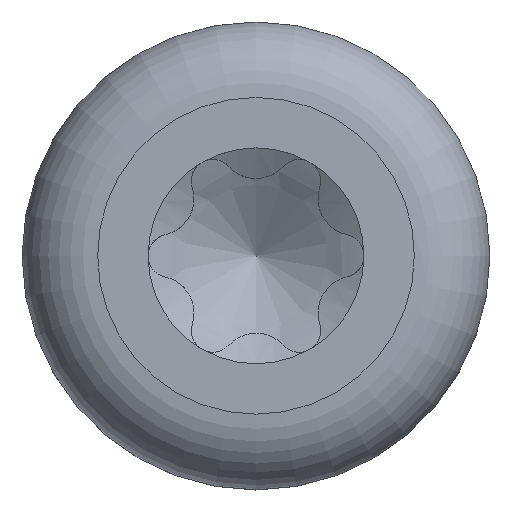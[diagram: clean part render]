
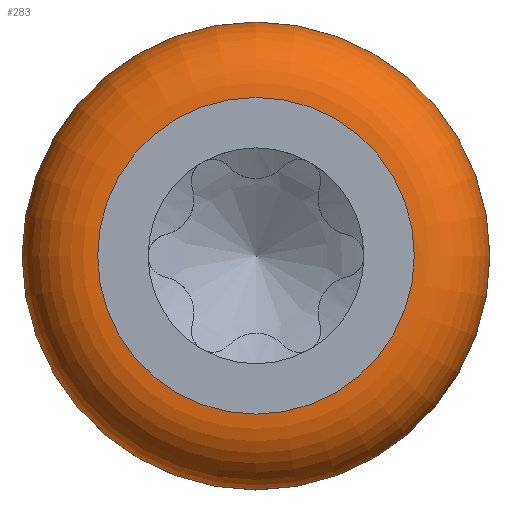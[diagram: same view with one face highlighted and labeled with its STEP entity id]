
A CAD part, top view. The second image highlights one B-rep face of the part: STEP entity #283.
In plain terms, the highlighted toroidal (fillet/blend) face has major radius 0.88 mm and minor radius 0.42 mm.
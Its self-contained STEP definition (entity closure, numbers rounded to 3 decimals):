
#283=ADVANCED_FACE('',(#476,#477),#353,.T.);
#353=TOROIDAL_SURFACE('',#1273,0.88,0.42);
#476=FACE_BOUND('',#500,.T.);
#477=FACE_BOUND('',#501,.T.);
#500=EDGE_LOOP('',(#628));
#501=EDGE_LOOP('',(#629));
#628=ORIENTED_EDGE('',*,*,#1101,.F.);
#629=ORIENTED_EDGE('',*,*,#1100,.T.);
#980=VERTEX_POINT('',#2711);
#981=VERTEX_POINT('',#2714);
#1100=EDGE_CURVE('',#980,#980,#1243,.T.);
#1101=EDGE_CURVE('',#981,#981,#1244,.T.);
#1243=CIRCLE('',#1270,1.3);
#1244=CIRCLE('',#1272,0.88);
#1270=AXIS2_PLACEMENT_3D('',#2710,#1342,#1343);
#1272=AXIS2_PLACEMENT_3D('',#2713,#1346,#1347);
#1273=AXIS2_PLACEMENT_3D('',#2715,#1348,#1349);
#1342=DIRECTION('',(0.,0.,1.));
#1343=DIRECTION('',(1.,0.,0.));
#1346=DIRECTION('',(0.,0.,1.));
#1347=DIRECTION('',(1.,0.,0.));
#1348=DIRECTION('',(0.,0.,1.));
#1349=DIRECTION('',(1.,0.,0.));
#2710=CARTESIAN_POINT('',(0.,0.,0.63));
#2711=CARTESIAN_POINT('',(1.3,0.,0.63));
#2713=CARTESIAN_POINT('',(0.,0.,1.05));
#2714=CARTESIAN_POINT('',(0.88,0.,1.05));
#2715=CARTESIAN_POINT('',(0.,0.,0.63));
